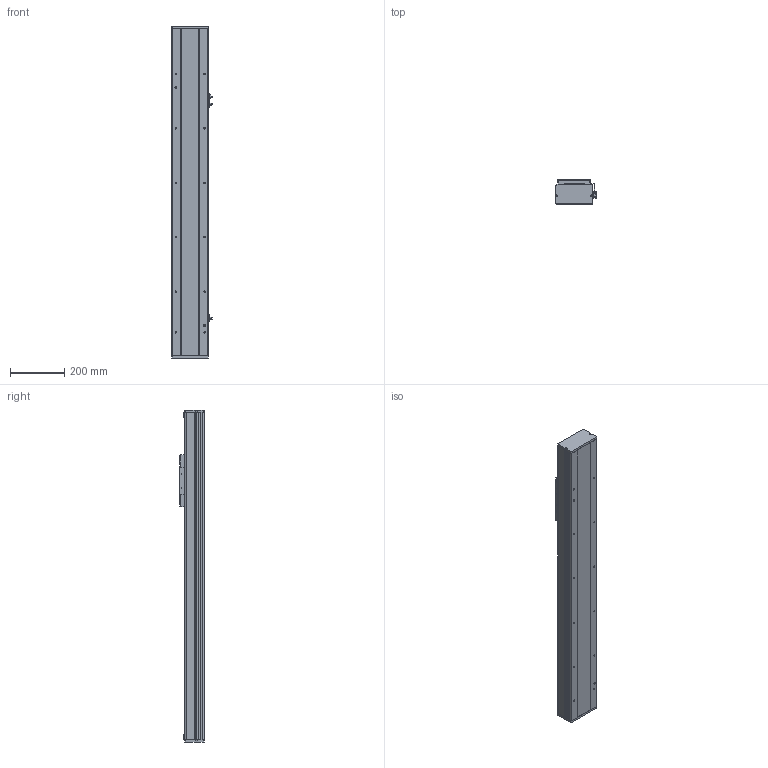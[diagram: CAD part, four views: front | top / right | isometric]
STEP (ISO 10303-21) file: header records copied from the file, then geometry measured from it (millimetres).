
FILE_DESCRIPTION (( 'STEP AP214' ), '1' );
FILE_NAME ('TPF14-M-800-P40.STEP', '2023-03-27T03:19:15', ( '' ), ( '' ), 'SwSTEP 2.0', 'SolidWorks 2020', '' );
FILE_SCHEMA (( 'AUTOMOTIVE_DESIGN' ));
Length unit declared in the file: millimetre
Products named in the file (6): TPF14-M-800-P40; 葩璃 詩湍75^TPF14-M-P40; 葩璃 TPF14 賑雄殤^TPF14-M-P40; 葩璃 TPF14-BL-001 菁釱MZ-135-01^TPF14-M-P40; 葩璃 TPF14-BL-002 耜裔ZTMZ-135-04^TPF14-M-P40; 葩璃 pm-t65-672^TPF14-M-P40
Assembly tree (8 placements, depth 2):
  TPF14-M-800-P40
    葩璃 TPF14-BL-001 菁釱MZ-135-01^TPF14-M-P40
    葩璃 TPF14-BL-002 耜裔ZTMZ-135-04^TPF14-M-P40  x2
    葩璃 詩湍75^TPF14-M-P40
    葩璃 TPF14 賑雄殤^TPF14-M-P40
    葩璃 pm-t65-672^TPF14-M-P40  x3
Bounding box: 148.7 x 91 x 1220 mm (x, y, z)
Volume: 7695056 mm3; surface area: 1166773.3 mm2
Topology: 15 solids, 15 shells, 779 faces, 2048 edges, 1306 vertices
Faces by surface type: plane 538, cylinder 185, cone 48, bspline 8
Entity records: 17343 total; most frequent: CARTESIAN_POINT 3128, DIRECTION 2684, ORIENTED_EDGE 2656, EDGE_CURVE 1328, VECTOR 976, LINE 976, VERTEX_POINT 854, AXIS2_PLACEMENT_3D 854
